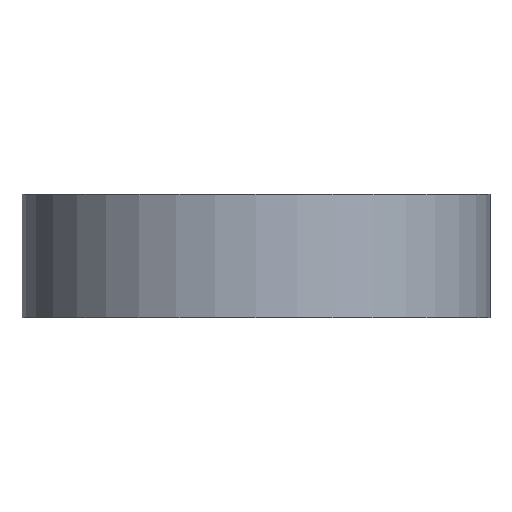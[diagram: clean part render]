
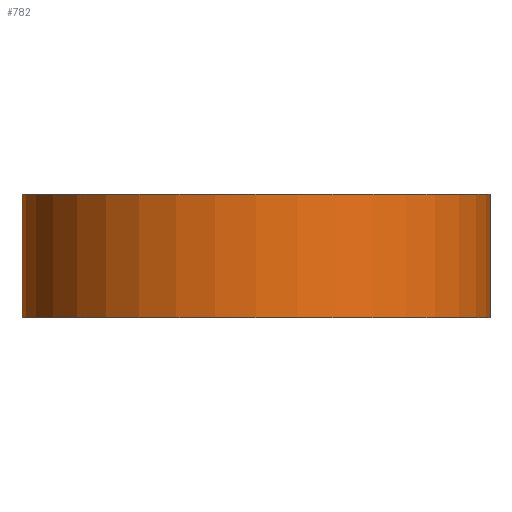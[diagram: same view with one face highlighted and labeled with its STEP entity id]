
A CAD part, left-side view. The second image highlights one B-rep face of the part: STEP entity #782.
In plain terms, the highlighted cylindrical face has radius 60 mm (diameter 120 mm), a full revolution.
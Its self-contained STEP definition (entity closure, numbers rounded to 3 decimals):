
#22=CYLINDRICAL_SURFACE('',#860,60.);
#38=FACE_BOUND('',#158,.T.);
#104=FACE_OUTER_BOUND('',#157,.T.);
#157=EDGE_LOOP('',(#735,#736,#737,#738));
#158=EDGE_LOOP('',(#739,#740,#741,#742));
#194=LINE('',#1182,#276);
#196=LINE('',#1185,#278);
#240=LINE('',#1289,#322);
#276=VECTOR('',#958,10.);
#278=VECTOR('',#962,10.);
#322=VECTOR('',#1072,60.);
#325=CIRCLE('',#801,60.);
#335=CIRCLE('',#818,60.);
#340=CIRCLE('',#824,60.);
#348=CIRCLE('',#855,60.);
#351=VERTEX_POINT('',#1081);
#378=VERTEX_POINT('',#1148);
#379=VERTEX_POINT('',#1150);
#388=VERTEX_POINT('',#1169);
#389=VERTEX_POINT('',#1171);
#418=VERTEX_POINT('',#1278);
#422=EDGE_CURVE('',#351,#351,#325,.T.);
#456=EDGE_CURVE('',#379,#378,#335,.T.);
#466=EDGE_CURVE('',#389,#388,#340,.T.);
#472=EDGE_CURVE('',#378,#389,#194,.T.);
#474=EDGE_CURVE('',#388,#379,#196,.T.);
#521=EDGE_CURVE('',#418,#418,#348,.T.);
#526=EDGE_CURVE('',#351,#418,#240,.T.);
#735=ORIENTED_EDGE('',*,*,#422,.F.);
#736=ORIENTED_EDGE('',*,*,#526,.T.);
#737=ORIENTED_EDGE('',*,*,#521,.F.);
#738=ORIENTED_EDGE('',*,*,#526,.F.);
#739=ORIENTED_EDGE('',*,*,#474,.T.);
#740=ORIENTED_EDGE('',*,*,#456,.T.);
#741=ORIENTED_EDGE('',*,*,#472,.T.);
#742=ORIENTED_EDGE('',*,*,#466,.T.);
#782=ADVANCED_FACE('',(#104,#38),#22,.T.);
#801=AXIS2_PLACEMENT_3D('',#1082,#872,#873);
#818=AXIS2_PLACEMENT_3D('',#1151,#930,#931);
#824=AXIS2_PLACEMENT_3D('',#1172,#947,#948);
#855=AXIS2_PLACEMENT_3D('',#1279,#1056,#1057);
#860=AXIS2_PLACEMENT_3D('',#1288,#1070,#1071);
#872=DIRECTION('center_axis',(0.,0.,-1.));
#873=DIRECTION('ref_axis',(1.,0.,0.));
#930=DIRECTION('center_axis',(0.,0.,-1.));
#931=DIRECTION('ref_axis',(1.,0.,0.));
#947=DIRECTION('center_axis',(0.,0.,1.));
#948=DIRECTION('ref_axis',(1.,0.,0.));
#958=DIRECTION('',(0.,0.,1.));
#962=DIRECTION('',(0.,0.,-1.));
#1056=DIRECTION('center_axis',(0.,0.,1.));
#1057=DIRECTION('ref_axis',(1.,0.,0.));
#1070=DIRECTION('center_axis',(0.,0.,-1.));
#1071=DIRECTION('ref_axis',(1.,0.,0.));
#1072=DIRECTION('',(0.,0.,1.));
#1081=CARTESIAN_POINT('',(-60.,0.,-4.));
#1082=CARTESIAN_POINT('Origin',(0.,0.,-4.));
#1148=CARTESIAN_POINT('',(16.75,-57.615,0.));
#1150=CARTESIAN_POINT('',(21.75,-55.919,0.));
#1151=CARTESIAN_POINT('Origin',(0.,0.,0.));
#1169=CARTESIAN_POINT('',(21.75,-55.919,12.9));
#1171=CARTESIAN_POINT('',(16.75,-57.615,12.9));
#1172=CARTESIAN_POINT('Origin',(0.,0.,12.9));
#1182=CARTESIAN_POINT('',(16.75,-57.615,0.));
#1185=CARTESIAN_POINT('',(21.75,-55.919,0.));
#1278=CARTESIAN_POINT('',(-60.,0.,27.7));
#1279=CARTESIAN_POINT('Origin',(0.,0.,27.7));
#1288=CARTESIAN_POINT('Origin',(0.,0.,0.));
#1289=CARTESIAN_POINT('',(-60.,0.,0.));
